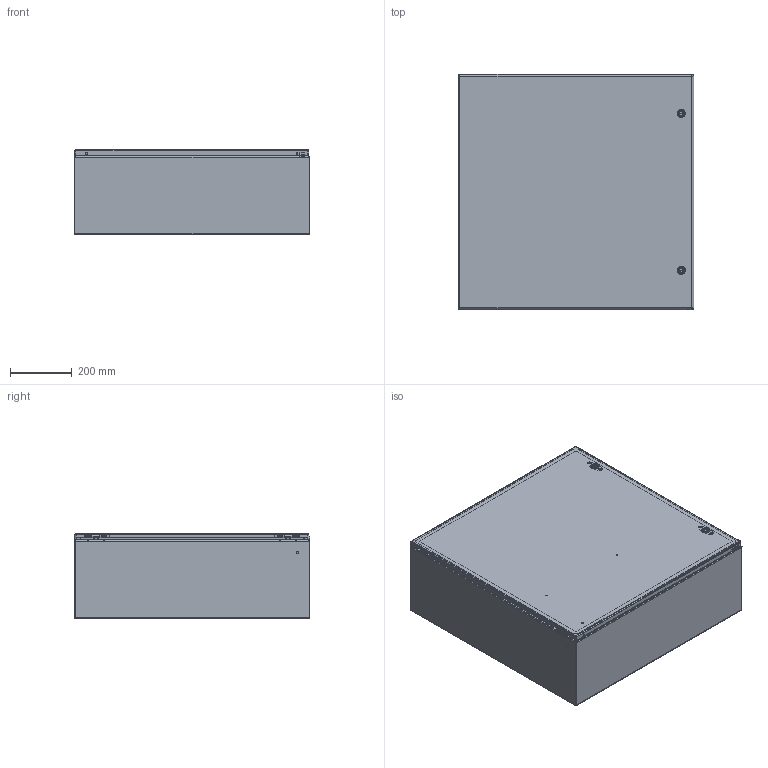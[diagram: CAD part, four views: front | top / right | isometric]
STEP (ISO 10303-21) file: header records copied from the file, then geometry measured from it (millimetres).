
FILE_DESCRIPTION (( 'STEP AP203' ), '1' );
FILE_NAME ('csd303010lg.STEP', '2012-06-11T16:14:27', ( 'User' ), ( 'Pentair Inc' ), 'SwSTEP 2.0', 'SolidWorks 2010', '' );
FILE_SCHEMA (( 'CONFIG_CONTROL_DESIGN' ));
Length unit declared in the file: inch
Products named in the file (27): 87929767; 87929769_Installed on Pin; 87931362_87931362; 64101001; 64201001; 87541994_Installed Height; 87541995; 64202001; 64210001; 64203001; 87927840_87927840; 87932903; 64138001; 87938008; 87543027; 89076399; 89076193; 89056623; 87929507; csd303010lg; 87951450; 87755921_default; 23271001_After Weld; 87937941_assy; 87937981_weldment; 87936140; 99401225
Assembly tree (43 placements, depth 4):
  csd303010lg
    87937941_assy
      64138001  x2
      87932903  x4
      64101001  x2
        64202001
        87927840_87927840
        64203001
        64201001
        87541994_Installed Height
        64210001
        87541995
      87937981_weldment
        87931362_87931362  x6
        99401225
        87936140
      87938008
    87543027  x2
    87929507  x2
      87929767
      87929769_Installed on Pin
    89076399  x2
      89056623
      89076193
    87951450
      23271001_After Weld  x4
      99401225
      87755921_default
Bounding box: 762 x 762.77 x 274.7 mm (x, y, z)
Volume: 3998453.1 mm3; surface area: 4275824.3 mm2
Topology: 47 solids, 47 shells, 2341 faces, 5784 edges, 3492 vertices
Faces by surface type: plane 851, cylinder 714, bspline 512, cone 132, torus 124, sphere 8
Entity records: 47023 total; most frequent: CARTESIAN_POINT 16415, ORIENTED_EDGE 5978, DIRECTION 5255, EDGE_CURVE 2989, AXIS2_PLACEMENT_3D 1890, VERTEX_POINT 1834, LINE 1475, VECTOR 1475
